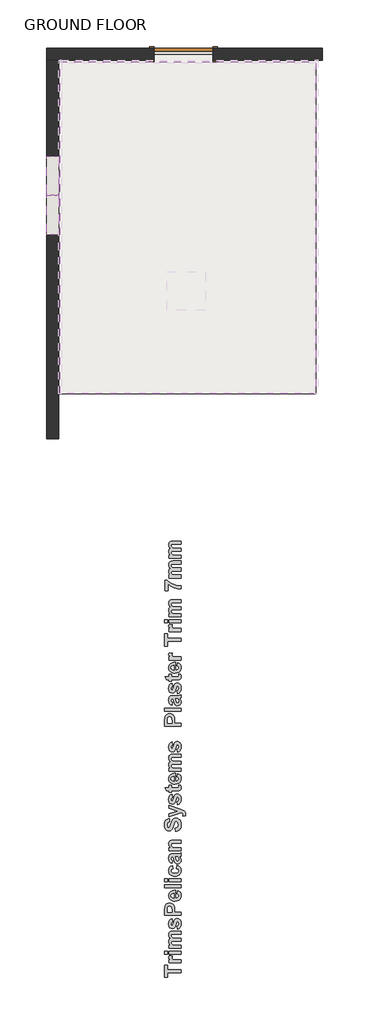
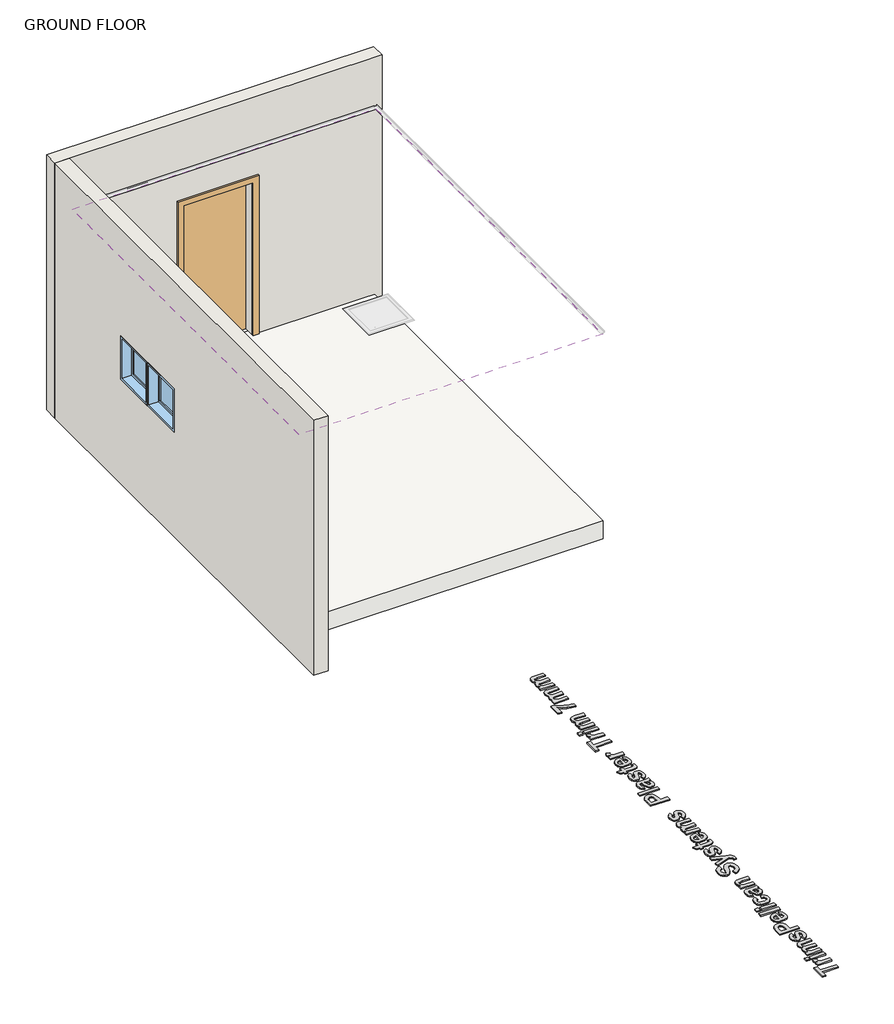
# One storey, part 1 of 2: 2 walls, 2 windows, 1 covering, 1 door, 1 proxy, 1 slab.
"""IFC4 building model written with IfcOpenShell, lengths in millimetres."""

from ifc_helpers import new_model, si_unit, frame, origin, origin_with_axes, place, context, project, spatial, polyline, outline, extrude, faceted_brep, transform, mapped, element, save
from components import m_single_flush_0915_x_2134mm_f5238887, m_fixed_0610_x_0610mm_09852ef8

model = new_model("IFC4")

# Units and contexts
model_context = context("Model", 3, world=origin())
ifc_project = project(units=[si_unit("LENGTHUNIT", "METRE", prefix="MILLI")], contexts=[model_context])

# Site, building, storey
site = spatial("IfcSite", under=ifc_project)
building = spatial("IfcBuilding", under=site)
storey = spatial("IfcBuildingStorey", under=building, Name="GROUND FLOOR", Elevation=0.0)

# Proxy
placement = place(None, origin())
element("IfcBuildingElementProxy", 1, Name="600mm Arial", ObjectType="600mm Arial", at=placement, inside=storey, context=model_context, shape_type="SweptSolid", body=[
    extrude(outline(polyline([(152353.6272706, 27971.9253815), (152143.0975532, 27971.9253815), (152143.0975532, 27899.04971), (152098.5624206, 27899.04971), (152098.5624206, 28093.3848338), (152143.0975532, 28093.3848338), (152143.0975532, 28020.5091624), (152353.6272706, 28020.5091624), (152353.6272706, 27971.9253815)])), origin_with_axes(), (0.0, 0.0, 1.0), 15.0),
    extrude(outline(polyline([(152353.6272706, 28174.3578021), (152353.6272706, 28125.7740211), (152167.3894436, 28125.7740211), (152167.3894436, 28174.3578021), (152193.3260975, 28174.3578021), (152169.1290973, 28193.7786624), (152163.3407952, 28213.3893032), (152165.9028305, 28228.5559197), (152173.5889365, 28243.1848251), (152219.8320926, 28229.0145557), (152213.9014553, 28217.3114313), (152211.9245762, 28206.4939489), (152217.4598377, 28189.3820833), (152225.2171113, 28183.1351453), (152237.4184091, 28178.3748204), (152297.8950948, 28174.3578021), (152353.6272706, 28174.3578021)])), origin_with_axes(), (0.0, 0.0, 1.0), 15.0),
    extrude(outline(polyline([(152143.0975532, 28263.4280672), (152098.5624206, 28263.4280672), (152098.5624206, 28312.0118481), (152143.0975532, 28312.0118481), (152143.0975532, 28263.4280672)])), origin_with_axes(), (0.0, 0.0, 1.0), 15.0),
    extrude(outline(polyline([(152353.6272706, 28263.4280672), (152167.3894436, 28263.4280672), (152167.3894436, 28312.0118481), (152353.6272706, 28312.0118481), (152353.6272706, 28263.4280672)])), origin_with_axes(), (0.0, 0.0, 1.0), 15.0),
    extrude(outline(polyline([(152167.3894436, 28356.5469807), (152167.3894436, 28405.1307616), (152192.3139354, 28405.1307616), (152179.6381866, 28417.0908802), (152170.5840803, 28430.1343286), (152165.1516165, 28444.2611067), (152163.3407952, 28459.4712145), (152165.1199864, 28475.1201895), (152170.45756, 28488.5392449), (152179.4009611, 28499.7441957), (152191.9976348, 28508.7508569), (152179.4009611, 28521.1893803), (152170.45756, 28534.5926206), (152165.1199864, 28548.9447629), (152163.3407952, 28564.2299922), (152165.420472, 28582.6861355), (152171.6595025, 28598.0741625), (152181.9313664, 28610.1884777), (152196.1095433, 28618.8234856), (152211.6873507, 28622.5242033), (152234.6349634, 28623.7577759), (152353.6272706, 28623.7577759), (152353.6272706, 28575.1739949), (152246.4013478, 28575.1739949), (152223.4537351, 28573.9404224), (152210.406333, 28570.2397047), (152202.4355565, 28561.8577373), (152199.7786309, 28549.8699424), (152201.3680417, 28540.1674197), (152206.1362741, 28531.0500532), (152213.9726229, 28523.4588375), (152224.7663829, 28518.3347668), (152263.5448434, 28514.4442687), (152353.6272706, 28514.4442687), (152353.6272706, 28465.8604878), (152250.829557, 28465.8604878), (152215.4987736, 28463.3300825), (152203.669129, 28455.5174563), (152199.7786309, 28441.1257764), (152201.3205966, 28430.7352998), (152205.9464938, 28421.4518755), (152213.4902644, 28413.9555499), (152223.7858508, 28408.9263695), (152262.4694212, 28405.1307616), (152353.6272706, 28405.1307616), (152353.6272706, 28356.5469807), (152167.3894436, 28356.5469807)])), origin_with_axes(), (0.0, 0.0, 1.0), 15.0),
    extrude(outline(polyline([(152300.9948413, 28652.0983148), (152292.8975444, 28700.6820957), (152305.1383799, 28705.3079928), (152314.0264283, 28713.1127115), (152319.4351696, 28724.3651074), (152321.2380833, 28739.334036), (152319.5142447, 28755.5760748), (152314.342729, 28767.231754), (152308.7125773, 28771.9762639), (152301.4376622, 28773.5577671), (152292.3282032, 28770.2049802), (152285.93893, 28754.3266872), (152273.5083141, 28707.4034847), (152262.1531205, 28681.5142759), (152244.1714282, 28665.5252777), (152220.3381737, 28660.1956116), (152198.1496826, 28664.7661561), (152179.7884294, 28678.4777896), (152167.4527038, 28701.8049631), (152163.3407952, 28735.2221275), (152166.6619521, 28767.0894187), (152176.6254228, 28789.5625804), (152193.1046871, 28804.5710466), (152215.9732246, 28814.0442513), (152224.0705214, 28765.4604703), (152213.6800448, 28761.8862729), (152206.041384, 28756.0979709), (152201.3443192, 28747.7476335), (152199.7786309, 28736.4873301), (152201.1070937, 28722.6491764), (152205.092482, 28713.3973821), (152214.9610625, 28708.7793925), (152223.7542208, 28713.3973821), (152237.355149, 28756.3826415), (152247.1762844, 28787.6094238), (152259.0533741, 28807.7182381), (152274.7260717, 28818.5357206), (152295.5544699, 28822.1415481), (152319.2532967, 28816.9146797), (152339.362111, 28801.2340747), (152347.374402, 28789.5250197), (152353.097467, 28775.3053283), (152357.675919, 28739.334036), (152353.8644961, 28706.0196693), (152342.4302273, 28680.4704837), (152324.448535, 28662.544144), (152300.9948413, 28652.0983148)])), origin_with_axes(), (0.0, 0.0, 1.0), 15.0),
    extrude(outline(polyline([(152353.6272706, 28866.6766806), (152098.5624206, 28866.6766806), (152098.5624206, 28948.8515914), (152102.3580285, 29009.771098), (152111.4121348, 29029.8166521), (152127.1876301, 29046.3038239), (152149.0993581, 29057.3348093), (152176.5621627, 29061.0118044), (152198.0468848, 29058.8530524), (152215.8150743, 29052.3767965), (152230.0169738, 29042.5714761), (152240.8028262, 29030.4255309), (152252.8538812, 29003.3818247), (152256.4597087, 28949.2944123), (152256.4597087, 28915.2604616), (152353.6272706, 28915.2604616), (152353.6272706, 28866.6766806)]), holes=[polyline([(152143.0975532, 28915.2604616), (152211.9245762, 28915.2604616), (152211.9245762, 28945.4355443), (152208.1289683, 28988.9901448), (152196.2044335, 29006.1969005), (152187.4191828, 29010.8702427), (152177.3212843, 29012.4280235), (152165.2544142, 29010.2376414), (152155.4965389, 29003.6664953), (152148.5062944, 28993.7583772), (152144.7423166, 28981.5570793), (152143.0975532, 28941.8929769), (152143.0975532, 28915.2604616)])]), origin_with_axes(), (0.0, 0.0, 1.0), 15.0),
    extrude(outline(polyline([(152296.9461928, 29206.7631473), (152305.0434897, 29255.3469282), (152327.7143393, 29243.5172837), (152344.2331411, 29226.373788), (152354.3152245, 29204.0904067), (152357.675919, 29176.8411051), (152355.6950862, 29154.8384406), (152349.7525876, 29135.895985), (152339.8484232, 29120.0137383), (152325.9825932, 29107.1917004), (152297.2783085, 29093.8121826), (152261.90008, 29089.3523433), (152240.0595196, 29090.8310489), (152220.7177344, 29095.2671656), (152203.8747244, 29102.6606935), (152189.5304896, 29113.0116325), (152178.0724983, 29125.6241212), (152169.8882188, 29139.8022981), (152164.9776511, 29155.5461634), (152163.3407952, 29172.8557168), (152165.0211425, 29192.0907505), (152170.0621842, 29209.1828473), (152178.4639204, 29224.1320071), (152190.2263511, 29236.93823), (152205.4601815, 29247.1428799), (152224.2761168, 29254.287321), (152246.6741571, 29258.3715533), (152272.6543024, 29259.3955766), (152272.6543024, 29137.9361243), (152293.1189549, 29141.0516857), (152308.4595368, 29149.3862081), (152318.0434467, 29161.6744886), (152321.2380833, 29176.6513247), (152319.7989153, 29186.8520209), (152315.4814114, 29195.3130635), (152307.9692707, 29201.9711923), (152296.9461928, 29206.7631473)]), holes=[polyline([(152244.3137635, 29210.8117957), (152225.1064061, 29207.8543846), (152211.1338245, 29199.9943132), (152202.6174293, 29188.5758595), (152199.7786309, 29174.9433012), (152202.7676721, 29160.5516213), (152211.7347958, 29148.880127), (152225.8892502, 29141.2256511), (152244.3137635, 29138.758506), (152244.3137635, 29210.8117957)])]), origin_with_axes(), (0.0, 0.0, 1.0), 15.0),
    extrude(outline(polyline([(152353.6272706, 29295.8334124), (152098.5624206, 29295.8334124), (152098.5624206, 29344.4171933), (152353.6272706, 29344.4171933), (152353.6272706, 29295.8334124)])), origin_with_axes(), (0.0, 0.0, 1.0), 15.0),
    extrude(outline(polyline([(152143.0975532, 29393.0009743), (152098.5624206, 29393.0009743), (152098.5624206, 29441.5847552), (152143.0975532, 29441.5847552), (152143.0975532, 29393.0009743)])), origin_with_axes(), (0.0, 0.0, 1.0), 15.0),
    extrude(outline(polyline([(152353.6272706, 29393.0009743), (152167.3894436, 29393.0009743), (152167.3894436, 29441.5847552), (152353.6272706, 29441.5847552), (152353.6272706, 29393.0009743)])), origin_with_axes(), (0.0, 0.0, 1.0), 15.0),
    extrude(outline(polyline([(152220.021873, 29644.0171758), (152228.1191698, 29595.4333949), (152215.7597216, 29591.7089546), (152206.8953957, 29585.0903634), (152201.5578221, 29575.8148466), (152199.7786309, 29564.1196298), (152203.1156029, 29548.7157878), (152213.1265187, 29536.791253), (152230.9500607, 29529.1525922), (152257.7249113, 29526.6063719), (152287.409728, 29529.2553899), (152306.8780335, 29537.2024439), (152317.6480709, 29549.6093372), (152321.2380833, 29565.637873), (152319.1900366, 29577.7759107), (152313.0458963, 29587.4942484), (152301.8883906, 29594.745441), (152284.8002476, 29599.4820433), (152292.8975444, 29648.0658243), (152321.0403954, 29637.4302147), (152341.323175, 29620.0732161), (152353.587733, 29595.8366782), (152357.675919, 29564.5624507), (152356.0667394, 29545.7959374), (152351.2392007, 29529.0339794), (152343.1933027, 29514.2765769), (152331.9290455, 29501.5237298), (152317.8220362, 29491.2419815), (152301.2478818, 29483.8978756), (152282.2065822, 29479.4914121), (152260.6981375, 29478.0225909), (152238.9465367, 29479.4815277), (152219.7451099, 29483.8583381), (152203.0938572, 29491.153022), (152188.9927785, 29501.3655794), (152177.7700358, 29514.0690046), (152169.7537911, 29528.8362915), (152164.9440442, 29545.6674402), (152163.3407952, 29564.5624507), (152166.843825, 29593.8044465), (152177.3529143, 29616.3724984), (152195.0262136, 29632.8992077), (152220.021873, 29644.0171758)])), origin_with_axes(), (0.0, 0.0, 1.0), 15.0),
    extrude(outline(polyline([(152224.0705214, 29724.9901441), (152215.9732246, 29680.4550116), (152192.6302361, 29690.1100891), (152176.245862, 29704.9050524), (152166.5670619, 29726.4688497), (152163.3407952, 29756.4304294), (152165.2939518, 29783.5215807), (152171.1534215, 29802.6735855), (152180.0098399, 29815.6102824), (152190.9538426, 29824.0555099), (152207.9629104, 29828.7051296), (152235.0145242, 29830.2550028), (152292.4547235, 29830.2550028), (152328.6395187, 29832.8170381), (152353.6272706, 29842.4009481), (152353.6272706, 29793.8171671), (152338.1917985, 29789.2624376), (152332.0555658, 29787.5544141), (152351.2550157, 29761.5545001), (152356.0706932, 29747.2418953), (152357.675919, 29732.0120187), (152353.7775134, 29707.2377697), (152342.0822966, 29688.3308979), (152324.4406275, 29676.3510105), (152302.7028648, 29672.3577147), (152287.8051038, 29674.1369059), (152274.6153664, 29679.4744795), (152263.7188088, 29688.0225048), (152255.7005871, 29699.433051), (152244.2505033, 29736.4402279), (152232.1678182, 29781.6712219), (152227.0437476, 29781.6712219), (152214.4233514, 29780.1608862), (152206.041384, 29775.6298793), (152201.3443192, 29766.9237037), (152199.7786309, 29752.8878621), (152201.1229087, 29742.8136861), (152205.1557421, 29735.2382854), (152224.0705214, 29724.9901441)]), holes=[polyline([(152268.605654, 29781.6712219), (152275.342858, 29754.2795849), (152283.0289639, 29729.7346539), (152289.9401333, 29723.1397852), (152298.5276961, 29720.9414957), (152307.1389815, 29722.7048718), (152314.5008793, 29727.9950003), (152319.5537823, 29736.0053145), (152321.2380833, 29745.9292476), (152319.2770192, 29757.8379673), (152313.393827, 29769.1457158), (152298.8439968, 29779.8999382), (152277.3988122, 29781.6712219), (152268.605654, 29781.6712219)])]), origin_with_axes(), (0.0, 0.0, 1.0), 15.0),
    extrude(outline(polyline([(152353.6272706, 30044.8333687), (152353.6272706, 29996.2495877), (152257.9146917, 29996.2495877), (152218.56689, 29993.2131014), (152204.7129212, 29983.2812608), (152199.7786309, 29966.7703665), (152201.5420071, 29955.0118895), (152206.8321356, 29944.5344303), (152215.0401377, 29936.2473531), (152225.5571345, 29931.0600223), (152268.6689141, 29927.4225647), (152353.6272706, 29927.4225647), (152353.6272706, 29878.8387838), (152167.3894436, 29878.8387838), (152167.3894436, 29927.4225647), (152194.2117394, 29927.4225647), (152180.7057013, 29939.714799), (152171.0585313, 29953.5015539), (152165.2702292, 29968.7828294), (152163.3407952, 29985.5586255), (152169.2239875, 30013.7726441), (152184.2166386, 30033.1302444), (152204.8710715, 30042.2713334), (152237.9877503, 30044.8333687), (152353.6272706, 30044.8333687)])), origin_with_axes(), (0.0, 0.0, 1.0), 15.0),
    extrude(outline(polyline([(152268.605654, 30178.4387663), (152264.5570055, 30227.0225472), (152286.2868607, 30234.107682), (152301.374402, 30246.0005867), (152310.1991904, 30262.7803365), (152313.1407865, 30284.5260067), (152310.5392136, 30307.0940586), (152302.7344949, 30323.3044673), (152291.4504689, 30333.0781576), (152278.4109743, 30336.3360544), (152263.1969127, 30330.9273131), (152252.28454, 30311.9809038), (152241.4670576, 30269.8496562), (152230.2858293, 30233.8862715), (152216.6058259, 30210.5116529), (152193.3102825, 30192.5299606), (152165.4283796, 30186.5360631), (152146.6401205, 30189.2878788), (152129.1170641, 30197.543326), (152114.2351182, 30210.9861039), (152103.3701906, 30229.299912), (152096.7278768, 30252.1842645), (152094.5137722, 30279.3386759), (152100.0332187, 30321.3038656), (152106.9325268, 30337.8444131), (152116.5915581, 30351.4235957), (152128.5516767, 30362.0849048), (152142.3542466, 30369.8718316), (152157.9992679, 30374.7843761), (152175.4867405, 30376.8225385), (152175.4867405, 30328.2387576), (152158.7939733, 30322.8695539), (152147.5573924, 30313.5940371), (152141.1760267, 30299.5581955), (152139.0489048, 30279.9080171), (152141.3104545, 30259.2219541), (152148.0951035, 30243.5967017), (152154.8955677, 30237.2390585), (152163.6570959, 30235.1198441), (152171.9283581, 30237.0492781), (152178.9027876, 30242.8375801), (152187.071252, 30259.6410525), (152195.5085721, 30290.440829), (152204.2859153, 30323.3123748), (152213.4744494, 30346.3311551), (152224.600325, 30362.4624887), (152239.1896928, 30374.671694), (152257.4244257, 30382.3578), (152279.4863966, 30384.9198353), (152300.5520203, 30381.8912565), (152320.2259212, 30372.8055202), (152336.7684456, 30358.1766148), (152348.4399398, 30338.5185289), (152355.3669242, 30313.6177597), (152357.675919, 30283.2608041), (152356.2545429, 30260.5583244), (152351.9904147, 30240.6551056), (152344.8835343, 30223.5511475), (152334.9339018, 30209.2464503), (152322.2601298, 30197.6421699), (152306.9808312, 30188.6394625), (152289.0960059, 30182.2383279), (152268.605654, 30178.4387663)])), origin_with_axes(), (0.0, 0.0, 1.0), 15.0),
    extrude(outline(polyline([(152167.3894436, 30405.1630774), (152167.3894436, 30453.7468583), (152299.2235576, 30496.2576667), (152167.3894436, 30538.768475), (152167.3894436, 30587.352256), (152345.8462744, 30524.345165), (152378.9945833, 30512.6420407), (152402.5906124, 30501.0970667), (152415.8119798, 30488.4766705), (152423.6878662, 30470.921984), (152426.502942, 30447.4208452), (152423.7194963, 30421.357671), (152387.7244815, 30417.3090226), (152390.0651063, 30436.6033627), (152387.4951635, 30450.3703488), (152379.785335, 30460.0412414), (152353.6272706, 30471.7127357), (152167.3894436, 30405.1630774)])), origin_with_axes(), (0.0, 0.0, 1.0), 15.0),
    extrude(outline(polyline([(152300.9948413, 30595.4495528), (152292.8975444, 30644.0333337), (152305.1383799, 30648.6592308), (152314.0264283, 30656.4639496), (152319.4351696, 30667.7163454), (152321.2380833, 30682.685274), (152319.5142447, 30698.9273128), (152314.342729, 30710.582992), (152308.7125773, 30715.3275019), (152301.4376622, 30716.9090052), (152292.3282032, 30713.5562182), (152285.93893, 30697.6779252), (152273.5083141, 30650.7547227), (152262.1531205, 30624.8655139), (152244.1714282, 30608.8765157), (152220.3381737, 30603.5468496), (152198.1496826, 30608.1173941), (152179.7884294, 30621.8290276), (152167.4527038, 30645.1562011), (152163.3407952, 30678.5733655), (152166.6619521, 30710.4406567), (152176.6254228, 30732.9138184), (152193.1046871, 30747.9222846), (152215.9732246, 30757.3954893), (152224.0705214, 30708.8117083), (152213.6800448, 30705.2375109), (152206.041384, 30699.4492089), (152201.3443192, 30691.0988715), (152199.7786309, 30679.8385681), (152201.1070937, 30666.0004144), (152205.092482, 30656.7486202), (152214.9610625, 30652.1306306), (152223.7542208, 30656.7486202), (152237.355149, 30699.7338795), (152247.1762844, 30730.9606619), (152259.0533741, 30751.0694761), (152274.7260717, 30761.8869586), (152295.5544699, 30765.4927861), (152319.2532967, 30760.2659177), (152339.362111, 30744.5853127), (152347.374402, 30732.8762577), (152353.097467, 30718.6565663), (152357.675919, 30682.685274), (152353.8644961, 30649.3709073), (152342.4302273, 30623.8217217), (152324.448535, 30605.895382), (152300.9948413, 30595.4495528)])), origin_with_axes(), (0.0, 0.0, 1.0), 15.0),
    extrude(outline(polyline([(152167.3894436, 30899.0981837), (152203.8272794, 30899.0981837), (152203.8272794, 30862.660348), (152283.7248254, 30862.660348), (152311.9704741, 30863.7674003), (152318.6127879, 30868.7965808), (152321.2380833, 30878.3488606), (152316.5568336, 30901.1225079), (152351.0968654, 30903.1468321), (152356.0311556, 30884.4060182), (152357.675919, 30863.3562095), (152353.1211896, 30838.8112785), (152341.3548051, 30822.7748351), (152321.8074245, 30815.6580703), (152286.445011, 30814.0765671), (152203.8272794, 30814.0765671), (152203.8272794, 30789.7846766), (152167.3894436, 30789.7846766), (152167.3894436, 30814.0765671), (152130.9516079, 30814.0765671), (152102.611069, 30862.660348), (152167.3894436, 30862.660348), (152167.3894436, 30899.0981837)])), origin_with_axes(), (0.0, 0.0, 1.0), 15.0),
    extrude(outline(polyline([(152296.9461928, 31032.7035813), (152305.0434897, 31081.2873623), (152327.7143393, 31069.4577177), (152344.2331411, 31052.3142221), (152354.3152245, 31030.0308408), (152357.675919, 31002.7815392), (152355.6950862, 30980.7788747), (152349.7525876, 30961.8364191), (152339.8484232, 30945.9541723), (152325.9825932, 30933.1321344), (152297.2783085, 30919.7526166), (152261.90008, 30915.2927774), (152240.0595196, 30916.7714829), (152220.7177344, 30921.2075997), (152203.8747244, 30928.6011275), (152189.5304896, 30938.9520665), (152178.0724983, 30951.5645552), (152169.8882188, 30965.7427322), (152164.9776511, 30981.4865974), (152163.3407952, 30998.7961509), (152165.0211425, 31018.0311846), (152170.0621842, 31035.1232814), (152178.4639204, 31050.0724412), (152190.2263511, 31062.878664), (152205.4601815, 31073.083314), (152224.2761168, 31080.2277551), (152246.6741571, 31084.3119873), (152272.6543024, 31085.3360107), (152272.6543024, 30963.8765583), (152293.1189549, 30966.9921198), (152308.4595368, 30975.3266421), (152318.0434467, 30987.6149226), (152321.2380833, 31002.5917588), (152319.7989153, 31012.792455), (152315.4814114, 31021.2534975), (152307.9692707, 31027.9116264), (152296.9461928, 31032.7035813)]), holes=[polyline([(152244.3137635, 31036.7522297), (152225.1064061, 31033.7948186), (152211.1338245, 31025.9347473), (152202.6174293, 31014.5162935), (152199.7786309, 31000.8837352), (152202.7676721, 30986.4920553), (152211.7347958, 30974.8205611), (152225.8892502, 30967.1660852), (152244.3137635, 30964.69894), (152244.3137635, 31036.7522297)])]), origin_with_axes(), (0.0, 0.0, 1.0), 15.0),
    extrude(outline(polyline([(152167.3894436, 31117.725198), (152167.3894436, 31166.3089789), (152192.3139354, 31166.3089789), (152179.6381866, 31178.2690976), (152170.5840803, 31191.3125459), (152165.1516165, 31205.439324), (152163.3407952, 31220.6494319), (152165.1199864, 31236.2984069), (152170.45756, 31249.7174623), (152179.4009611, 31260.922413), (152191.9976348, 31269.9290743), (152179.4009611, 31282.3675976), (152170.45756, 31295.770838), (152165.1199864, 31310.1229803), (152163.3407952, 31325.4082095), (152165.420472, 31343.8643529), (152171.6595025, 31359.2523799), (152181.9313664, 31371.366695), (152196.1095433, 31380.001703), (152211.6873507, 31383.7024207), (152234.6349634, 31384.9359932), (152353.6272706, 31384.9359932), (152353.6272706, 31336.3522123), (152246.4013478, 31336.3522123), (152223.4537351, 31335.1186397), (152210.406333, 31331.417922), (152202.4355565, 31323.0359546), (152199.7786309, 31311.0481597), (152201.3680417, 31301.345637), (152206.1362741, 31292.2282706), (152213.9726229, 31284.6370548), (152224.7663829, 31279.5129842), (152263.5448434, 31275.6224861), (152353.6272706, 31275.6224861), (152353.6272706, 31227.0387051), (152250.829557, 31227.0387051), (152215.4987736, 31224.5082999), (152203.669129, 31216.6956736), (152199.7786309, 31202.3039937), (152201.3205966, 31191.9135172), (152205.9464938, 31182.6300929), (152213.4902644, 31175.1337673), (152223.7858508, 31170.1045868), (152262.4694212, 31166.3089789), (152353.6272706, 31166.3089789), (152353.6272706, 31117.725198), (152167.3894436, 31117.725198)])), origin_with_axes(), (0.0, 0.0, 1.0), 15.0),
    extrude(outline(polyline([(152300.9948413, 31413.2765321), (152292.8975444, 31461.8603131), (152305.1383799, 31466.4862102), (152314.0264283, 31474.2909289), (152319.4351696, 31485.5433248), (152321.2380833, 31500.5122534), (152319.5142447, 31516.7542921), (152314.342729, 31528.4099713), (152308.7125773, 31533.1544812), (152301.4376622, 31534.7359845), (152292.3282032, 31531.3831975), (152285.93893, 31515.5049045), (152273.5083141, 31468.581702), (152262.1531205, 31442.6924932), (152244.1714282, 31426.703495), (152220.3381737, 31421.3738289), (152198.1496826, 31425.9443734), (152179.7884294, 31439.6560069), (152167.4527038, 31462.9831804), (152163.3407952, 31496.4003448), (152166.6619521, 31528.267636), (152176.6254228, 31550.7407977), (152193.1046871, 31565.7492639), (152215.9732246, 31575.2224686), (152224.0705214, 31526.6386877), (152213.6800448, 31523.0644902), (152206.041384, 31517.2761882), (152201.3443192, 31508.9258509), (152199.7786309, 31497.6655475), (152201.1070937, 31483.8273937), (152205.092482, 31474.5755995), (152214.9610625, 31469.9576099), (152223.7542208, 31474.5755995), (152237.355149, 31517.5608588), (152247.1762844, 31548.7876412), (152259.0533741, 31568.8964555), (152274.7260717, 31579.7139379), (152295.5544699, 31583.3197654), (152319.2532967, 31578.0928971), (152339.362111, 31562.412292), (152347.374402, 31550.703237), (152353.097467, 31536.4835456), (152357.675919, 31500.5122534), (152353.8644961, 31467.1978867), (152342.4302273, 31441.6487011), (152324.448535, 31423.7223613), (152300.9948413, 31413.2765321)])), origin_with_axes(), (0.0, 0.0, 1.0), 15.0),
    extrude(outline(polyline([(152353.6272706, 31822.1900218), (152098.5624206, 31822.1900218), (152098.5624206, 31904.3649325), (152102.3580285, 31965.2844391), (152111.4121348, 31985.3299933), (152127.1876301, 32001.817165), (152149.0993581, 32012.8481504), (152176.5621627, 32016.5251456), (152198.0468848, 32014.3663936), (152215.8150743, 32007.8901376), (152230.0169738, 31998.0848173), (152240.8028262, 31985.938872), (152252.8538812, 31958.8951658), (152256.4597087, 31904.8077534), (152256.4597087, 31870.7738027), (152353.6272706, 31870.7738027), (152353.6272706, 31822.1900218)]), holes=[polyline([(152143.0975532, 31870.7738027), (152211.9245762, 31870.7738027), (152211.9245762, 31900.9488854), (152208.1289683, 31944.5034859), (152196.2044335, 31961.7102417), (152187.4191828, 31966.3835839), (152177.3212843, 31967.9413646), (152165.2544142, 31965.7509826), (152155.4965389, 31959.1798364), (152148.5062944, 31949.2717183), (152144.7423166, 31937.0704205), (152143.0975532, 31897.4063181), (152143.0975532, 31870.7738027)])]), origin_with_axes(), (0.0, 0.0, 1.0), 15.0),
    extrude(outline(polyline([(152353.6272706, 32057.0116297), (152098.5624206, 32057.0116297), (152098.5624206, 32105.5954107), (152353.6272706, 32105.5954107), (152353.6272706, 32057.0116297)])), origin_with_axes(), (0.0, 0.0, 1.0), 15.0),
    extrude(outline(polyline([(152224.0705214, 32194.6656757), (152215.9732246, 32150.1305432), (152192.6302361, 32159.7856208), (152176.245862, 32174.580584), (152166.5670619, 32196.1443813), (152163.3407952, 32226.1059611), (152165.2939518, 32253.1971124), (152171.1534215, 32272.3491171), (152180.0098399, 32285.285814), (152190.9538426, 32293.7310416), (152207.9629104, 32298.3806612), (152235.0145242, 32299.9305345), (152292.4547235, 32299.9305345), (152328.6395187, 32302.4925698), (152353.6272706, 32312.0764797), (152353.6272706, 32263.4926987), (152338.1917985, 32258.9379693), (152332.0555658, 32257.2299457), (152351.2550157, 32231.2300317), (152356.0706932, 32216.917427), (152357.675919, 32201.6875503), (152353.7775134, 32176.9133013), (152342.0822966, 32158.0064296), (152324.4406275, 32146.0265422), (152302.7028648, 32142.0332464), (152287.8051038, 32143.8124376), (152274.6153664, 32149.1500112), (152263.7188088, 32157.6980364), (152255.7005871, 32169.1085826), (152244.2505033, 32206.1157595), (152232.1678182, 32251.3467535), (152227.0437476, 32251.3467535), (152214.4233514, 32249.8364179), (152206.041384, 32245.305411), (152201.3443192, 32236.5992354), (152199.7786309, 32222.5633937), (152201.1229087, 32212.4892178), (152205.1557421, 32204.913817), (152224.0705214, 32194.6656757)]), holes=[polyline([(152268.605654, 32251.3467535), (152275.342858, 32223.9551166), (152283.0289639, 32199.4101856), (152289.9401333, 32192.8153169), (152298.5276961, 32190.6170273), (152307.1389815, 32192.3804035), (152314.5008793, 32197.670532), (152319.5537823, 32205.6808461), (152321.2380833, 32215.6047792), (152319.2770192, 32227.513499), (152313.393827, 32238.8212475), (152298.8439968, 32249.5754698), (152277.3988122, 32251.3467535), (152268.605654, 32251.3467535)])]), origin_with_axes(), (0.0, 0.0, 1.0), 15.0),
    extrude(outline(polyline([(152300.9948413, 32328.2710733), (152292.8975444, 32376.8548543), (152305.1383799, 32381.4807514), (152314.0264283, 32389.2854701), (152319.4351696, 32400.537866), (152321.2380833, 32415.5067946), (152319.5142447, 32431.7488334), (152314.342729, 32443.4045126), (152308.7125773, 32448.1490224), (152301.4376622, 32449.7305257), (152292.3282032, 32446.3777388), (152285.93893, 32430.4994458), (152273.5083141, 32383.5762433), (152262.1531205, 32357.6870345), (152244.1714282, 32341.6980362), (152220.3381737, 32336.3683702), (152198.1496826, 32340.9389147), (152179.7884294, 32354.6505482), (152167.4527038, 32377.9777216), (152163.3407952, 32411.3948861), (152166.6619521, 32443.2621773), (152176.6254228, 32465.735339), (152193.1046871, 32480.7438052), (152215.9732246, 32490.2170098), (152224.0705214, 32441.6332289), (152213.6800448, 32438.0590315), (152206.041384, 32432.2707294), (152201.3443192, 32423.9203921), (152199.7786309, 32412.6600887), (152201.1070937, 32398.8219349), (152205.092482, 32389.5701407), (152214.9610625, 32384.9521511), (152223.7542208, 32389.5701407), (152237.355149, 32432.5554), (152247.1762844, 32463.7821824), (152259.0533741, 32483.8909967), (152274.7260717, 32494.7084792), (152295.5544699, 32498.3143067), (152319.2532967, 32493.0874383), (152339.362111, 32477.4068332), (152347.374402, 32465.6977783), (152353.097467, 32451.4780869), (152357.675919, 32415.5067946), (152353.8644961, 32382.1924279), (152342.4302273, 32356.6432423), (152324.448535, 32338.7169025), (152300.9948413, 32328.2710733)])), origin_with_axes(), (0.0, 0.0, 1.0), 15.0),
    extrude(outline(polyline([(152167.3894436, 32631.9197043), (152203.8272794, 32631.9197043), (152203.8272794, 32595.4818686), (152283.7248254, 32595.4818686), (152311.9704741, 32596.5889209), (152318.6127879, 32601.6181013), (152321.2380833, 32611.1703812), (152316.5568336, 32633.9440285), (152351.0968654, 32635.9683527), (152356.0311556, 32617.2275388), (152357.675919, 32596.17773), (152353.1211896, 32571.632799), (152341.3548051, 32555.5963557), (152321.8074245, 32548.4795909), (152286.445011, 32546.8980876), (152203.8272794, 32546.8980876), (152203.8272794, 32522.6061971), (152167.3894436, 32522.6061971), (152167.3894436, 32546.8980876), (152130.9516079, 32546.8980876), (152102.611069, 32595.4818686), (152167.3894436, 32595.4818686), (152167.3894436, 32631.9197043)])), origin_with_axes(), (0.0, 0.0, 1.0), 15.0),
    extrude(outline(polyline([(152296.9461928, 32765.5251019), (152305.0434897, 32814.1088828), (152327.7143393, 32802.2792383), (152344.2331411, 32785.1357426), (152354.3152245, 32762.8523613), (152357.675919, 32735.6030597), (152355.6950862, 32713.6003953), (152349.7525876, 32694.6579396), (152339.8484232, 32678.7756929), (152325.9825932, 32665.953655), (152297.2783085, 32652.5741372), (152261.90008, 32648.1142979), (152240.0595196, 32649.5930035), (152220.7177344, 32654.0291202), (152203.8747244, 32661.4226481), (152189.5304896, 32671.7735871), (152178.0724983, 32684.3860758), (152169.8882188, 32698.5642528), (152164.9776511, 32714.308118), (152163.3407952, 32731.6176714), (152165.0211425, 32750.8527052), (152170.0621842, 32767.9448019), (152178.4639204, 32782.8939617), (152190.2263511, 32795.7001846), (152205.4601815, 32805.9048346), (152224.2761168, 32813.0492756), (152246.6741571, 32817.1335079), (152272.6543024, 32818.1575313), (152272.6543024, 32696.6980789), (152293.1189549, 32699.8136404), (152308.4595368, 32708.1481627), (152318.0434467, 32720.4364432), (152321.2380833, 32735.4132793), (152319.7989153, 32745.6139755), (152315.4814114, 32754.0750181), (152307.9692707, 32760.7331469), (152296.9461928, 32765.5251019)]), holes=[polyline([(152244.3137635, 32769.5737503), (152225.1064061, 32766.6163392), (152211.1338245, 32758.7562678), (152202.6174293, 32747.3378141), (152199.7786309, 32733.7052558), (152202.7676721, 32719.3135759), (152211.7347958, 32707.6420816), (152225.8892502, 32699.9876057), (152244.3137635, 32697.5204606), (152244.3137635, 32769.5737503)])]), origin_with_axes(), (0.0, 0.0, 1.0), 15.0),
    extrude(outline(polyline([(152353.6272706, 32903.1791479), (152353.6272706, 32854.595367), (152167.3894436, 32854.595367), (152167.3894436, 32903.1791479), (152193.3260975, 32903.1791479), (152169.1290973, 32922.6000083), (152163.3407952, 32942.210649), (152165.9028305, 32957.3772655), (152173.5889365, 32972.0061709), (152219.8320926, 32957.8359015), (152213.9014553, 32946.1327772), (152211.9245762, 32935.3152947), (152217.4598377, 32918.2034291), (152225.2171113, 32911.9564912), (152237.4184091, 32907.1961663), (152297.8950948, 32903.1791479), (152353.6272706, 32903.1791479)])), origin_with_axes(), (0.0, 0.0, 1.0), 15.0),
    extrude(outline(polyline([(152353.6272706, 33146.0980527), (152143.0975532, 33146.0980527), (152143.0975532, 33073.2223812), (152098.5624206, 33073.2223812), (152098.5624206, 33267.5575051), (152143.0975532, 33267.5575051), (152143.0975532, 33194.6818336), (152353.6272706, 33194.6818336), (152353.6272706, 33146.0980527)])), origin_with_axes(), (0.0, 0.0, 1.0), 15.0),
    extrude(outline(polyline([(152353.6272706, 33348.5304733), (152353.6272706, 33299.9466924), (152167.3894436, 33299.9466924), (152167.3894436, 33348.5304733), (152193.3260975, 33348.5304733), (152169.1290973, 33367.9513337), (152163.3407952, 33387.5619744), (152165.9028305, 33402.7285909), (152173.5889365, 33417.3574963), (152219.8320926, 33403.1872269), (152213.9014553, 33391.4841026), (152211.9245762, 33380.6666201), (152217.4598377, 33363.5547545), (152225.2171113, 33357.3078165), (152237.4184091, 33352.5474916), (152297.8950948, 33348.5304733), (152353.6272706, 33348.5304733)])), origin_with_axes(), (0.0, 0.0, 1.0), 15.0),
    extrude(outline(polyline([(152143.0975532, 33437.6007384), (152098.5624206, 33437.6007384), (152098.5624206, 33486.1845193), (152143.0975532, 33486.1845193), (152143.0975532, 33437.6007384)])), origin_with_axes(), (0.0, 0.0, 1.0), 15.0),
    extrude(outline(polyline([(152353.6272706, 33437.6007384), (152167.3894436, 33437.6007384), (152167.3894436, 33486.1845193), (152353.6272706, 33486.1845193), (152353.6272706, 33437.6007384)])), origin_with_axes(), (0.0, 0.0, 1.0), 15.0),
    extrude(outline(polyline([(152167.3894436, 33530.7196519), (152167.3894436, 33579.3034328), (152192.3139354, 33579.3034328), (152179.6381866, 33591.2635514), (152170.5840803, 33604.3069998), (152165.1516165, 33618.4337779), (152163.3407952, 33633.6438857), (152165.1199864, 33649.2928607), (152170.45756, 33662.7119161), (152179.4009611, 33673.9168669), (152191.9976348, 33682.9235281), (152179.4009611, 33695.3620515), (152170.45756, 33708.7652918), (152165.1199864, 33723.1174341), (152163.3407952, 33738.4026634), (152165.420472, 33756.8588068), (152171.6595025, 33772.2468337), (152181.9313664, 33784.3611489), (152196.1095433, 33792.9961568), (152211.6873507, 33796.6968745), (152234.6349634, 33797.9304471), (152353.6272706, 33797.9304471), (152353.6272706, 33749.3466661), (152246.4013478, 33749.3466661), (152223.4537351, 33748.1130936), (152210.406333, 33744.4123759), (152202.4355565, 33736.0304085), (152199.7786309, 33724.0426136), (152201.3680417, 33714.3400909), (152206.1362741, 33705.2227245), (152213.9726229, 33697.6315087), (152224.7663829, 33692.507438), (152263.5448434, 33688.61694), (152353.6272706, 33688.61694), (152353.6272706, 33640.033159), (152250.829557, 33640.033159), (152215.4987736, 33637.5027537), (152203.669129, 33629.6901275), (152199.7786309, 33615.2984476), (152201.3205966, 33604.907971), (152205.9464938, 33595.6245467), (152213.4902644, 33588.1282212), (152223.7858508, 33583.0990407), (152262.4694212, 33579.3034328), (152353.6272706, 33579.3034328), (152353.6272706, 33530.7196519), (152167.3894436, 33530.7196519)])), origin_with_axes(), (0.0, 0.0, 1.0), 15.0),
    extrude(outline(polyline([(152151.19485, 33935.5844931), (152102.611069, 33935.5844931), (152102.611069, 34097.5304296), (152139.0489048, 34097.5304296), (152163.6887259, 34076.8522742), (152197.1217054, 34055.8103729), (152236.1373915, 34037.1090966), (152277.5253325, 34023.4528157), (152317.8378512, 34015.1499234), (152353.6272706, 34012.508813), (152353.6272706, 33963.925032), (152301.1767141, 33970.1008023), (152247.6981805, 33986.0977081), (152196.5760868, 34010.5240263), (152151.19485, 34041.9880342), (152151.19485, 33935.5844931)])), origin_with_axes(), (0.0, 0.0, 1.0), 15.0),
    extrude(outline(polyline([(152167.3894436, 34133.9682653), (152167.3894436, 34182.5520463), (152192.3139354, 34182.5520463), (152179.6381866, 34194.5121649), (152170.5840803, 34207.5556132), (152165.1516165, 34221.6823913), (152163.3407952, 34236.8924992), (152165.1199864, 34252.5414742), (152170.45756, 34265.9605296), (152179.4009611, 34277.1654804), (152191.9976348, 34286.1721416), (152179.4009611, 34298.6106649), (152170.45756, 34312.0139053), (152165.1199864, 34326.3660476), (152163.3407952, 34341.6512769), (152165.420472, 34360.1074202), (152171.6595025, 34375.4954472), (152181.9313664, 34387.6097624), (152196.1095433, 34396.2447703), (152211.6873507, 34399.945488), (152234.6349634, 34401.1790606), (152353.6272706, 34401.1790606), (152353.6272706, 34352.5952796), (152246.4013478, 34352.5952796), (152223.4537351, 34351.361707), (152210.406333, 34347.6609894), (152202.4355565, 34339.2790219), (152199.7786309, 34327.291227), (152201.3680417, 34317.5887044), (152206.1362741, 34308.4713379), (152213.9726229, 34300.8801222), (152224.7663829, 34295.7560515), (152263.5448434, 34291.8655534), (152353.6272706, 34291.8655534), (152353.6272706, 34243.2817725), (152250.829557, 34243.2817725), (152215.4987736, 34240.7513672), (152203.669129, 34232.938741), (152199.7786309, 34218.5470611), (152201.3205966, 34208.1565845), (152205.9464938, 34198.8731602), (152213.4902644, 34191.3768346), (152223.7858508, 34186.3476542), (152262.4694212, 34182.5520463), (152353.6272706, 34182.5520463), (152353.6272706, 34133.9682653), (152167.3894436, 34133.9682653)])), origin_with_axes(), (0.0, 0.0, 1.0), 15.0),
    extrude(outline(polyline([(152167.3894436, 34445.7141931), (152167.3894436, 34494.297974), (152192.3139354, 34494.297974), (152179.6381866, 34506.2580926), (152170.5840803, 34519.301541), (152165.1516165, 34533.4283191), (152163.3407952, 34548.638427), (152165.1199864, 34564.287402), (152170.45756, 34577.7064574), (152179.4009611, 34588.9114081), (152191.9976348, 34597.9180694), (152179.4009611, 34610.3565927), (152170.45756, 34623.7598331), (152165.1199864, 34638.1119754), (152163.3407952, 34653.3972046), (152165.420472, 34671.853348), (152171.6595025, 34687.241375), (152181.9313664, 34699.3556901), (152196.1095433, 34707.9906981), (152211.6873507, 34711.6914158), (152234.6349634, 34712.9249883), (152353.6272706, 34712.9249883), (152353.6272706, 34664.3412074), (152246.4013478, 34664.3412074), (152223.4537351, 34663.1076348), (152210.406333, 34659.4069171), (152202.4355565, 34651.0249497), (152199.7786309, 34639.0371548), (152201.3680417, 34629.3346321), (152206.1362741, 34620.2172657), (152213.9726229, 34612.6260499), (152224.7663829, 34607.5019793), (152263.5448434, 34603.6114812), (152353.6272706, 34603.6114812), (152353.6272706, 34555.0277002), (152250.829557, 34555.0277002), (152215.4987736, 34552.497295), (152203.669129, 34544.6846687), (152199.7786309, 34530.2929888), (152201.3205966, 34519.9025122), (152205.9464938, 34510.619088), (152213.4902644, 34503.1227624), (152223.7858508, 34498.0935819), (152262.4694212, 34494.297974), (152353.6272706, 34494.297974), (152353.6272706, 34445.7141931), (152167.3894436, 34445.7141931)])), origin_with_axes(), (0.0, 0.0, 1.0), 15.0),
])

# Covering
element("IfcCovering", 2, ObjectType="_C2.3 - 12mm FLUSHPLASTER CEILING (UNDER CONCRETE SOFFIT) - 7 mm", at=placement, inside=storey, context=model_context, shape_type="SweptSolid", body=[
    extrude(outline(polyline([(150466.7345529, 42193.9193804), (154466.7345529, 42193.9193804), (154466.7345529, 37012.9193804), (150466.7345529, 37012.9193804), (150466.7345529, 42193.9193804)]), holes=[polyline([(152182.6212716, 38871.9489557), (152182.6212716, 38361.2489557), (152693.3212716, 38361.2489557), (152693.3212716, 38871.9489557), (152182.6212716, 38871.9489557)])]), frame((0.0, 0.0, 2600.0), z_axis=(0.0, 0.0, 1.0), x_axis=(1.0, 0.0, 0.0)), (0.0, 0.0, 1.0), 7.0),
])

# Door
m_single_flush_0915_x_2134mm_shape = m_single_flush_0915_x_2134mm_f5238887(model_context)
element("IfcDoor", 3, ObjectType="M_Single-Flush : 0915 x 2134mm", at=placement, inside=storey, context=model_context, shape_type="MappedRepresentation", body=[
    mapped(m_single_flush_0915_x_2134mm_shape, transform((152394.7345529, 42312.9193804, 0.0), x_axis=(1.0, 0.0, 0.0), y_axis=(0.0, 1.0, 0.0), z_axis=(0.0, 0.0, 1.0))),
])

# Slab
element("IfcSlab", 4, ObjectType="Generic Floor - 250mm", at=placement, inside=storey, context=model_context, shape_type="Brep", body=[
    faceted_brep([(150366.7345529, 42312.9193804, -250.0), (154466.7345529, 42312.9193804, -250.0), (154466.7345529, 42217.9193804, -250.0), (154466.7345529, 37012.9193804, -250.0), (150366.7345529, 37012.9193804, -250.0), (150366.7345529, 42217.9193804, -250.0), (150366.7345529, 42312.9193804, 0.0), (150366.7345529, 42217.9193804, 0.0), (150366.7345529, 37012.9193804, 0.0), (154466.7345529, 37012.9193804, 0.0), (154466.7345529, 42217.9193804, 0.0), (154466.7345529, 42312.9193804, 0.0), (152852.2345529, 42312.9193804, 0.0), (151937.2345529, 42312.9193804, 0.0)], [[[0, 1, 2, 3, 4, 5]], [[6, 7, 8, 9, 10, 11, 12, 13]], [[1, 0, 6, 13, 12, 11]], [[3, 2, 1, 11, 10, 9]], [[4, 3, 9, 8]], [[0, 5, 4, 8, 7, 6]]]),
])

# Walls
element("IfcWall", 5, ObjectType="190mm MAXI BLOCK- plastered", at=placement, inside=storey, context=model_context, shape_type="Brep", body=[
    faceted_brep([(154561.7345529, 42217.9193804, -250.0), (154561.7345529, 42217.9193804, 3300.0), (150442.7345529, 42217.9193804, 3300.0), (150252.7345529, 42217.9193804, 3300.0), (150252.7345529, 42217.9193804, -250.0), (150366.7345529, 42217.9193804, -250.0), (150366.7345529, 42217.9193804, 0.0), (151937.2345529, 42217.9193804, 0.0), (151937.2345529, 42217.9193804, 2134.0), (152852.2345529, 42217.9193804, 2134.0), (152852.2345529, 42217.9193804, 0.0), (154466.7345529, 42217.9193804, 0.0), (154466.7345529, 42217.9193804, -250.0), (154561.7345529, 42407.9193804, -250.0), (150252.7345529, 42407.9193804, -250.0), (150252.7345529, 42407.9193804, 3300.0), (154561.7345529, 42407.9193804, 3300.0), (151937.2345529, 42407.9193804, 0.0), (152852.2345529, 42407.9193804, 0.0), (152852.2345529, 42407.9193804, 2134.0), (151937.2345529, 42407.9193804, 2134.0), (154466.7345529, 42312.9193804, -250.0), (150366.7345529, 42312.9193804, -250.0), (151937.2345529, 42312.9193804, 0.0), (152852.2345529, 42312.9193804, 0.0), (150366.7345529, 42312.9193804, 0.0), (154466.7345529, 42312.9193804, 0.0)], [[[0, 1, 2, 3, 4, 5, 6, 7, 8, 9, 10, 11, 12]], [[13, 14, 15, 16], [17, 18, 19, 20]], [[14, 13, 0, 12, 21, 22, 5, 4]], [[1, 0, 13, 16]], [[3, 2, 1, 16, 15]], [[18, 17, 23, 24]], [[19, 18, 24, 10, 9]], [[20, 19, 9, 8]], [[17, 20, 8, 7, 23]], [[25, 23, 7, 6]], [[24, 26, 11, 10]], [[25, 22, 21, 26, 24, 23]], [[22, 25, 6, 5]], [[26, 21, 12, 11]], [[4, 3, 15, 14]]]),
])
element("IfcWall", 6, ObjectType="190mm MAXI BLOCK- plastered", at=placement, inside=storey, context=model_context, shape_type="Brep", body=[
    faceted_brep([(150442.7345529, 36312.9193804, -250.0), (150442.7345529, 42217.9193804, -250.0), (150442.7345529, 42217.9193804, 3300.0), (150442.7345529, 36312.9193804, 3300.0), (150442.7345529, 39497.9193804, 1810.0), (150442.7345529, 40717.9193804, 1810.0), (150442.7345529, 40717.9193804, 1200.0), (150442.7345529, 39497.9193804, 1200.0), (150252.7345529, 42217.9193804, -250.0), (150252.7345529, 36312.9193804, -250.0), (150252.7345529, 36312.9193804, 3300.0), (150252.7345529, 42217.9193804, 3300.0), (150252.7345529, 39497.9193804, 1200.0), (150252.7345529, 40717.9193804, 1200.0), (150252.7345529, 40717.9193804, 1810.0), (150252.7345529, 39497.9193804, 1810.0), (150366.7345529, 42217.9193804, -250.0)], [[[0, 1, 2, 3], [4, 5, 6, 7]], [[8, 9, 10, 11], [12, 13, 14, 15]], [[1, 0, 9, 8, 16]], [[3, 2, 11, 10]], [[0, 3, 10, 9]], [[2, 1, 16, 8, 11]], [[14, 13, 6, 5]], [[14, 5, 4, 15]], [[12, 7, 6, 13]], [[15, 4, 7, 12]]]),
])

# Windows
m_fixed_0610_x_0610mm_shape = m_fixed_0610_x_0610mm_09852ef8(model_context)
element("IfcWindow", 7, ObjectType="M_Fixed : 0610 x 0610mm", at=placement, inside=storey, context=model_context, shape_type="MappedRepresentation", body=[
    mapped(m_fixed_0610_x_0610mm_shape, transform((150334.7345529, 40412.9193804, 285.0), x_axis=(0.0, -1.0, 0.0), y_axis=(1.0, 0.0, 0.0), z_axis=(0.0, 0.0, 1.0))),
])
element("IfcWindow", 8, ObjectType="M_Fixed : 0610 x 0610mm", at=placement, inside=storey, context=model_context, shape_type="MappedRepresentation", body=[
    mapped(m_fixed_0610_x_0610mm_shape, transform((150334.7345529, 39802.9193804, 285.0), x_axis=(0.0, -1.0, 0.0), y_axis=(1.0, 0.0, 0.0), z_axis=(0.0, 0.0, 1.0))),
])

save(model, "model.ifc")
